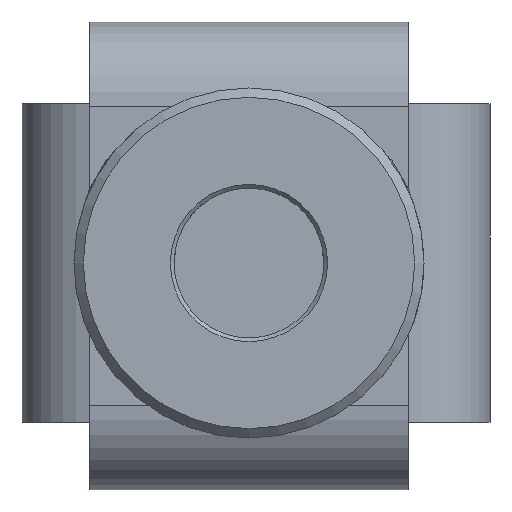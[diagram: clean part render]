
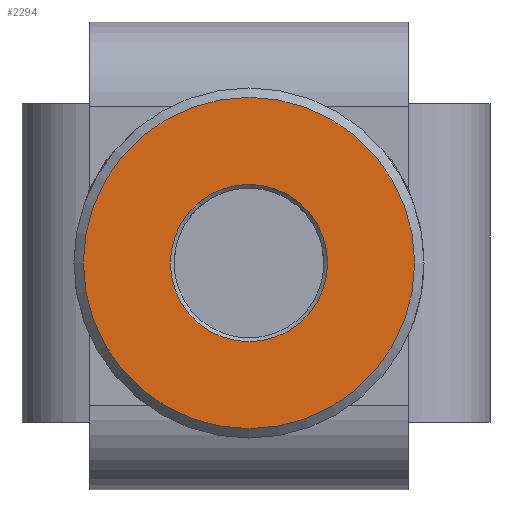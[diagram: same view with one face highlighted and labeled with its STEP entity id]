
A CAD part, front view. The second image highlights one B-rep face of the part: STEP entity #2294.
In plain terms, the highlighted planar face has unit normal (0, -1, 0).
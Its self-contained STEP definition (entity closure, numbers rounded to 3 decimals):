
#389=PLANE('',#2486);
#467=FACE_BOUND('',#734,.T.);
#561=FACE_OUTER_BOUND('',#733,.T.);
#733=EDGE_LOOP('',(#1620));
#734=EDGE_LOOP('',(#1621));
#920=CIRCLE('',#2483,4.2);
#922=CIRCLE('',#2487,8.85);
#1055=VERTEX_POINT('',#3614);
#1057=VERTEX_POINT('',#3620);
#1271=EDGE_CURVE('',#1055,#1055,#920,.T.);
#1273=EDGE_CURVE('',#1057,#1057,#922,.T.);
#1620=ORIENTED_EDGE('',*,*,#1273,.F.);
#1621=ORIENTED_EDGE('',*,*,#1271,.F.);
#2294=ADVANCED_FACE('',(#561,#467),#389,.F.);
#2483=AXIS2_PLACEMENT_3D('',#3615,#2871,#2872);
#2486=AXIS2_PLACEMENT_3D('',#3619,#2877,#2878);
#2487=AXIS2_PLACEMENT_3D('',#3621,#2879,#2880);
#2871=DIRECTION('center_axis',(0.,-1.,0.));
#2872=DIRECTION('ref_axis',(-0.5,0.,-0.866));
#2877=DIRECTION('center_axis',(0.,1.,0.));
#2878=DIRECTION('ref_axis',(-0.5,0.,-0.866));
#2879=DIRECTION('center_axis',(0.,1.,0.));
#2880=DIRECTION('ref_axis',(-0.5,0.,-0.866));
#3614=CARTESIAN_POINT('',(-44.801,0.046,12.137));
#3615=CARTESIAN_POINT('Origin',(-46.901,0.046,8.5));
#3619=CARTESIAN_POINT('Origin',(-46.901,0.046,8.5));
#3620=CARTESIAN_POINT('',(-42.476,0.046,16.164));
#3621=CARTESIAN_POINT('Origin',(-46.901,0.046,8.5));
